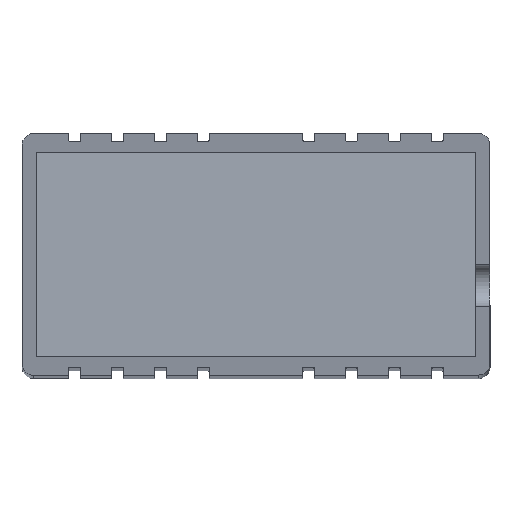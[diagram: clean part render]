
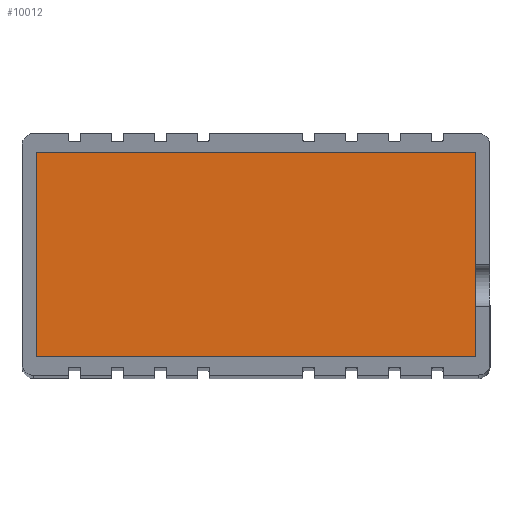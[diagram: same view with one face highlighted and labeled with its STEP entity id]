
A CAD part, top view. The second image highlights one B-rep face of the part: STEP entity #10012.
In plain terms, the highlighted planar face has unit normal (0, 0, 1).
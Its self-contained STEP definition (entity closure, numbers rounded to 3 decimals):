
#270=LINE($,#14143,#1202);
#271=LINE($,#14145,#1203);
#272=LINE($,#14147,#1204);
#273=LINE($,#14148,#1205);
#1202=VECTOR($,#11448,56.3);
#1203=VECTOR($,#11449,26.2);
#1204=VECTOR($,#11450,56.3);
#1205=VECTOR($,#11451,26.2);
#2133=PLANE($,#10545);
#2617=FACE_OUTER_BOUND($,#3115,.T.);
#3115=EDGE_LOOP($,(#6467,#6468,#6469,#6470));
#4105=VERTEX_POINT($,#14141);
#4106=VERTEX_POINT($,#14142);
#4107=VERTEX_POINT($,#14144);
#4108=VERTEX_POINT($,#14146);
#5043=EDGE_CURVE($,#4105,#4106,#270,.T.);
#5044=EDGE_CURVE($,#4107,#4105,#271,.T.);
#5045=EDGE_CURVE($,#4108,#4107,#272,.T.);
#5046=EDGE_CURVE($,#4106,#4108,#273,.T.);
#6467=ORIENTED_EDGE($,*,*,#5043,.F.);
#6468=ORIENTED_EDGE($,*,*,#5044,.F.);
#6469=ORIENTED_EDGE($,*,*,#5045,.F.);
#6470=ORIENTED_EDGE($,*,*,#5046,.F.);
#10012=ADVANCED_FACE($,(#2617),#2133,.F.);
#10545=AXIS2_PLACEMENT_3D($,#14140,#11446,#11447);
#11446=DIRECTION('center_axis',(0.,0.,
-1.));
#11447=DIRECTION('ref_axis',(-1.,0.,0.));
#11448=DIRECTION($,(-1.,0.,0.));
#11449=DIRECTION($,(0.,-1.,0.));
#11450=DIRECTION($,(1.,0.,0.));
#11451=DIRECTION($,(0.,1.,0.));
#14140=CARTESIAN_POINT('Origin',(-20.952,74.37,125.852));
#14141=CARTESIAN_POINT('',(7.198,61.27,125.852));
#14142=CARTESIAN_POINT('',(-49.102,61.27,125.852));
#14143=CARTESIAN_POINT($,(-35.027,61.27,125.852));
#14144=CARTESIAN_POINT('',(7.198,87.47,125.852));
#14145=CARTESIAN_POINT($,(7.198,67.82,125.852));
#14146=CARTESIAN_POINT('',(-49.102,87.47,125.852));
#14147=CARTESIAN_POINT($,(-6.877,87.47,125.852));
#14148=CARTESIAN_POINT($,(-49.102,80.92,125.852));
